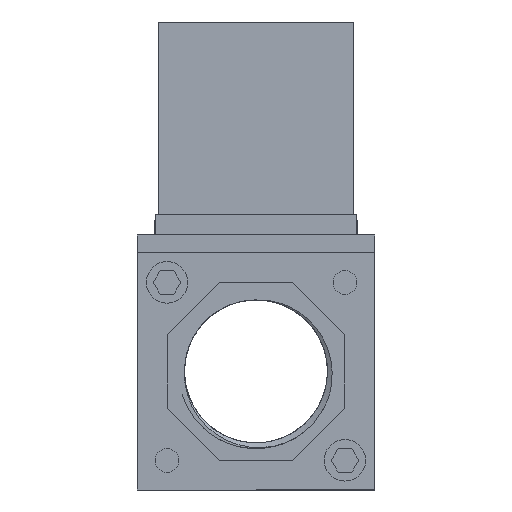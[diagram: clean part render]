
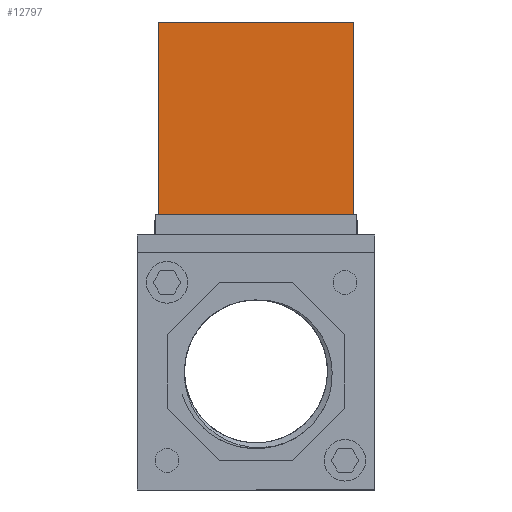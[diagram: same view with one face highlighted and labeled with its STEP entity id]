
A CAD part, left-side view. The second image highlights one B-rep face of the part: STEP entity #12797.
In plain terms, the highlighted planar face has unit normal (-1, 0, 0) as drawn and (1, 0, 0) by its records, which use the part's own axes.
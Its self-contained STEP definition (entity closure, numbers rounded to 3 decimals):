
#1003 = LINE ( 'NONE', #2317, #13733 ) ;
#1043 = VERTEX_POINT ( 'NONE', #1372 ) ;
#1138 = VERTEX_POINT ( 'NONE', #12231 ) ;
#1372 = CARTESIAN_POINT ( 'NONE',  ( 57., 32.4, 33. ) ) ;
#1417 = LINE ( 'NONE', #15199, #11922 ) ;
#1618 = VECTOR ( 'NONE', #15724, 1000. ) ;
#2317 = CARTESIAN_POINT ( 'NONE',  ( 57., 32.4, 33. ) ) ;
#2780 = AXIS2_PLACEMENT_3D ( 'NONE', #12893, #5656, #17931 ) ;
#3785 = ORIENTED_EDGE ( 'NONE', *, *, #15517, .T. ) ;
#5110 = VERTEX_POINT ( 'NONE', #15921 ) ;
#5656 = DIRECTION ( 'NONE',  ( -1., 0., 0. ) ) ;
#7120 = CARTESIAN_POINT ( 'NONE',  ( 57., 0., 33. ) ) ;
#8099 = ORIENTED_EDGE ( 'NONE', *, *, #18524, .T. ) ;
#8469 = FACE_OUTER_BOUND ( 'NONE', #13942, .T. ) ;
#9924 = ORIENTED_EDGE ( 'NONE', *, *, #10022, .F. ) ;
#10022 = EDGE_CURVE ( 'NONE', #1043, #5110, #1003, .T. ) ;
#11571 = DIRECTION ( 'NONE',  ( 0., 0., -1. ) ) ;
#11922 = VECTOR ( 'NONE', #16614, 1000. ) ;
#12231 = CARTESIAN_POINT ( 'NONE',  ( 57., 0., 0. ) ) ;
#12702 = CARTESIAN_POINT ( 'NONE',  ( 57., 0., 0. ) ) ;
#12797 = ADVANCED_FACE ( 'NONE', ( #8469 ), #17520, .F. ) ;
#12893 = CARTESIAN_POINT ( 'NONE',  ( 57., 0., 33. ) ) ;
#13030 = VERTEX_POINT ( 'NONE', #18328 ) ;
#13733 = VECTOR ( 'NONE', #11571, 1000. ) ;
#13942 = EDGE_LOOP ( 'NONE', ( #3785, #9924, #15954, #8099 ) ) ;
#14150 = VECTOR ( 'NONE', #16366, 1000. ) ;
#15199 = CARTESIAN_POINT ( 'NONE',  ( 57., 0., 33. ) ) ;
#15517 = EDGE_CURVE ( 'NONE', #1138, #5110, #16956, .T. ) ;
#15724 = DIRECTION ( 'NONE',  ( 0., 1., 0. ) ) ;
#15921 = CARTESIAN_POINT ( 'NONE',  ( 57., 32.4, 0. ) ) ;
#15954 = ORIENTED_EDGE ( 'NONE', *, *, #16462, .F. ) ;
#16366 = DIRECTION ( 'NONE',  ( 0., 0., -1. ) ) ;
#16462 = EDGE_CURVE ( 'NONE', #13030, #1043, #1417, .T. ) ;
#16614 = DIRECTION ( 'NONE',  ( 0., 1., 0. ) ) ;
#16956 = LINE ( 'NONE', #12702, #1618 ) ;
#17520 = PLANE ( 'NONE',  #2780 ) ;
#17931 = DIRECTION ( 'NONE',  ( 0., 0., 1. ) ) ;
#17980 = LINE ( 'NONE', #7120, #14150 ) ;
#18328 = CARTESIAN_POINT ( 'NONE',  ( 57., 0., 33. ) ) ;
#18524 = EDGE_CURVE ( 'NONE', #13030, #1138, #17980, .T. ) ;
